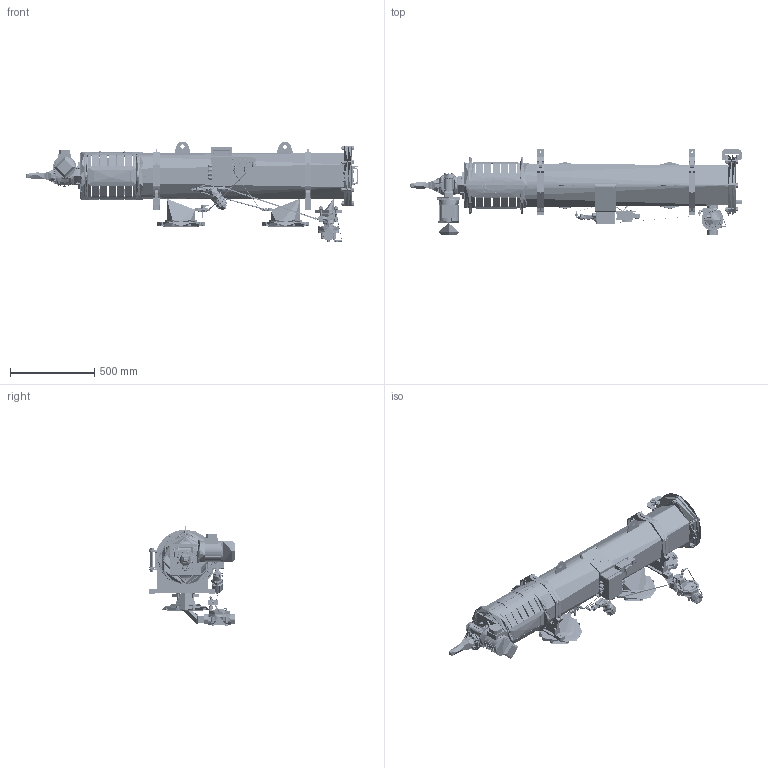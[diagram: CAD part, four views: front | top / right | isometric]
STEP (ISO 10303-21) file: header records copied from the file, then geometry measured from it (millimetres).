
FILE_DESCRIPTION (( 'STEP AP214' ), '1' );
FILE_NAME ('041043-000035with clamp.STEP', '2023-01-17T08:16:33', ( '' ), ( '' ), 'SwSTEP 2.0', 'SolidWorks 2019', '' );
FILE_SCHEMA (( 'AUTOMOTIVE_DESIGN' ));
Length unit declared in the file: millimetre
Products named in the file (1): 041043-000035with clamp
Bounding box: 1967.82 x 513.8 x 598.48 mm (x, y, z)
Topology: 272 solids, 279 shells, 16203 faces, 39447 edges, 24124 vertices
Faces by surface type: plane 8525, cylinder 2694, bspline 2534, cone 1298, torus 927, sphere 225
Full cylindrical faces by diameter (mm): 1.2 x10, 2 x2, 2.381 x2, 2.4 x4, 3 x6, 3.141 x1, 3.5 x5, 3.9 x2, 4 x22, 4.134 x1, 4.166 x2, 4.2 x1, 4.3 x1, 4.4 x2, 4.7 x2, 4.75 x12, 4.763 x2, 4.773 x5, 4.917 x2, 4.971 x1, 5 x15, 5.7 x9, 6 x43, 6.2 x3, 6.5 x14, 6.6 x3, 6.858 x2, 7 x12, 7.137 x26, 7.187 x1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
Entity records: 829794 total; most frequent: CARTESIAN_POINT 306399, ORIENTED_EDGE 73884, DIRECTION 64509, EDGE_CURVE 36942, AXIS2_PLACEMENT_3D 24114, VERTEX_POINT 23591, EDGE_LOOP 19245, FACE_OUTER_BOUND 17299
